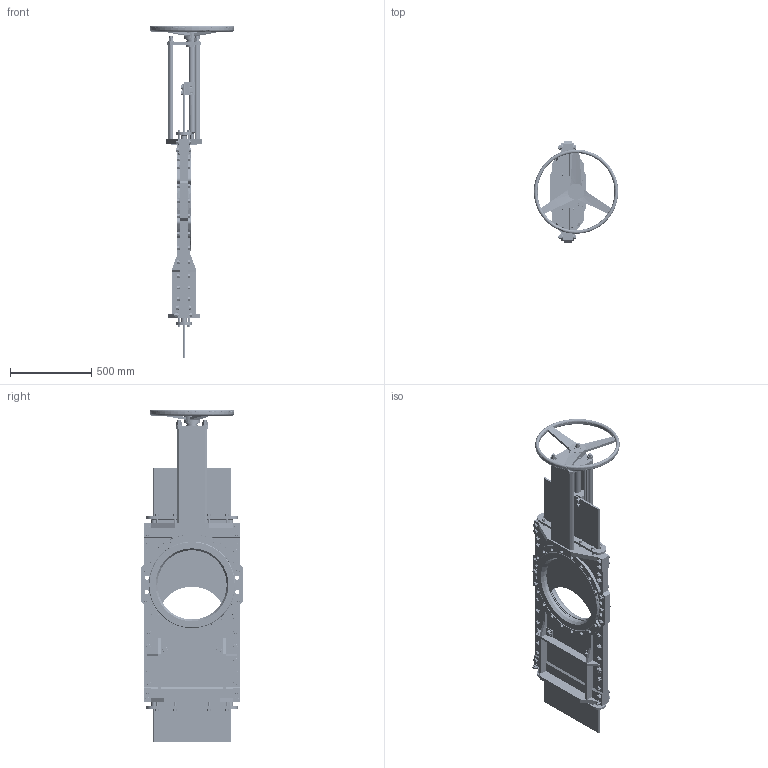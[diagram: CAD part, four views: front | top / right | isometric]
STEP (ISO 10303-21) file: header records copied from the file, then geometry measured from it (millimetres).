
FILE_DESCRIPTION(('STEP AP203'),'1');
FILE_NAME('G:/KONSTRUK/3-d block för CD/HG VALVE/HAND WHEEL/HG450-PN10-HW.stp','2012-12-03T09:57:40',(' '),(' '),'Spatial InterOp 3D',' ',' ');
FILE_SCHEMA(('CONFIG_CONTROL_DESIGN'));
Length unit declared in the file: millimetre
Products named in the file (3): 1; 2; 3
Bounding box: 520 x 625 x 2048.75 mm (x, y, z)
Volume: 46827203.2 mm3; surface area: 6502137.3 mm2
Topology: 3 solids, 64 shells, 4392 faces, 10098 edges, 6266 vertices
Faces by surface type: plane 1630, cone 1624, cylinder 1122, torus 12, bspline 4
Entity records: 132451 total; most frequent: CARTESIAN_POINT 32633, DIRECTION 21526, ORIENTED_EDGE 20188, EDGE_CURVE 10094, AXIS2_PLACEMENT_3D 8882, VERTEX_POINT 6266, EDGE_LOOP 4984, CIRCLE 4473
